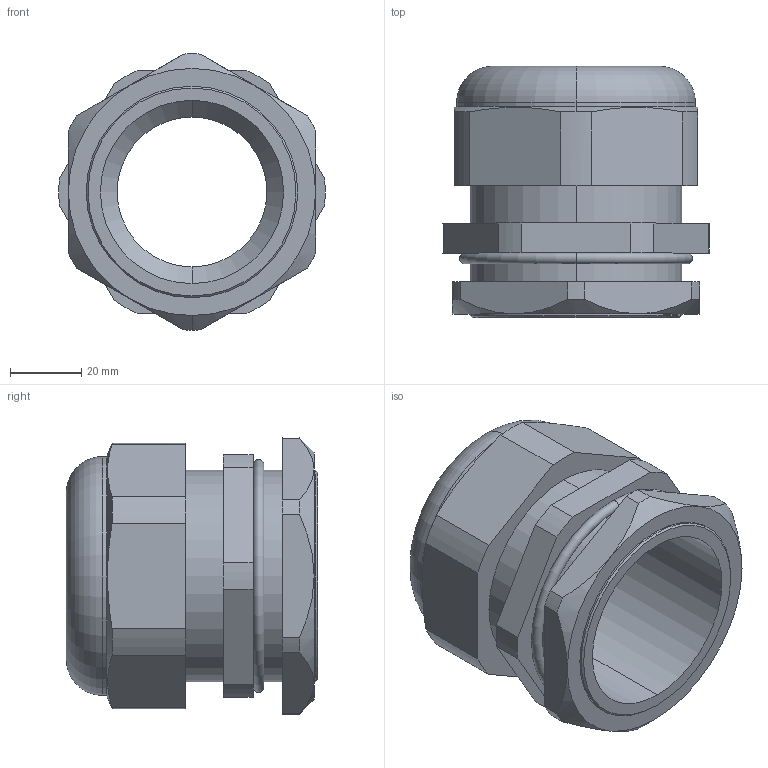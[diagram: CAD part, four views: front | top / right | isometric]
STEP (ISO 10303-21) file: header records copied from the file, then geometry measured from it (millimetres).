
FILE_DESCRIPTION (( 'STEP AP203' ), '1' );
FILE_NAME ('CH-PG48.STEP', '2018-02-07T14:34:20', ( '' ), ( '' ), 'SwSTEP 2.0', 'SolidWorks 2012', '' );
FILE_SCHEMA (( 'CONFIG_CONTROL_DESIGN' ));
Length unit declared in the file: millimetre
Products named in the file (1): CH-PG48
Bounding box: 74.71 x 70.5 x 77.49 mm (x, y, z)
Volume: 123498.8 mm3; surface area: 34934.2 mm2
Topology: 1 solids, 1 shells, 78 faces, 189 edges, 118 vertices
Faces by surface type: cylinder 34, plane 25, cone 15, torus 4
Entity records: 2482 total; most frequent: CARTESIAN_POINT 536, DIRECTION 415, ORIENTED_EDGE 378, EDGE_CURVE 189, AXIS2_PLACEMENT_3D 165, VERTEX_POINT 118, CIRCLE 86, VECTOR 85
